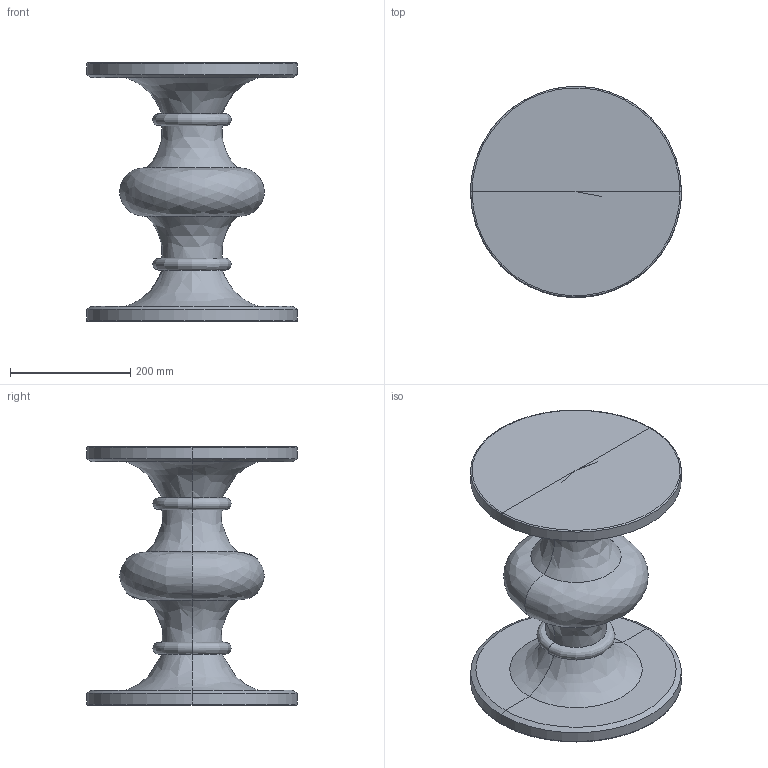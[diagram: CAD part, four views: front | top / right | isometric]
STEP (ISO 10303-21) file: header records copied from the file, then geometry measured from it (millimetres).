
FILE_DESCRIPTION(/* description */ (''),/* implementation_level */ '2;1');
FILE_NAME(/* name */ 'KINOSH~3',/* time_stamp */ '2018-07-03T09:56:32+09:00',/* author */ (''),/* organization */ (''),/* preprocessor_version */ 'ST-DEVELOPER v15',/* originating_system */ '',/* authorisation */ '');
FILE_SCHEMA (('AUTOMOTIVE_DESIGN'));
Length unit declared in the file: millimetre
Products named in the file (1): Document
Bounding box: 350 x 349.75 x 430 mm (x, y, z)
Volume: 11798562.9 mm3; surface area: 611980.3 mm2
Topology: 1 solids, 1 shells, 34 faces, 70 edges, 34 vertices
Faces by surface type: bspline 34
Entity records: 1303 total; most frequent: CARTESIAN_POINT 928, ORIENTED_EDGE 132, EDGE_CURVE 66, ADVANCED_FACE 34, FACE_OUTER_BOUND 34, EDGE_LOOP 34, VERTEX_POINT 34, B_SPLINE_CURVE_WITH_KNOTS 16
